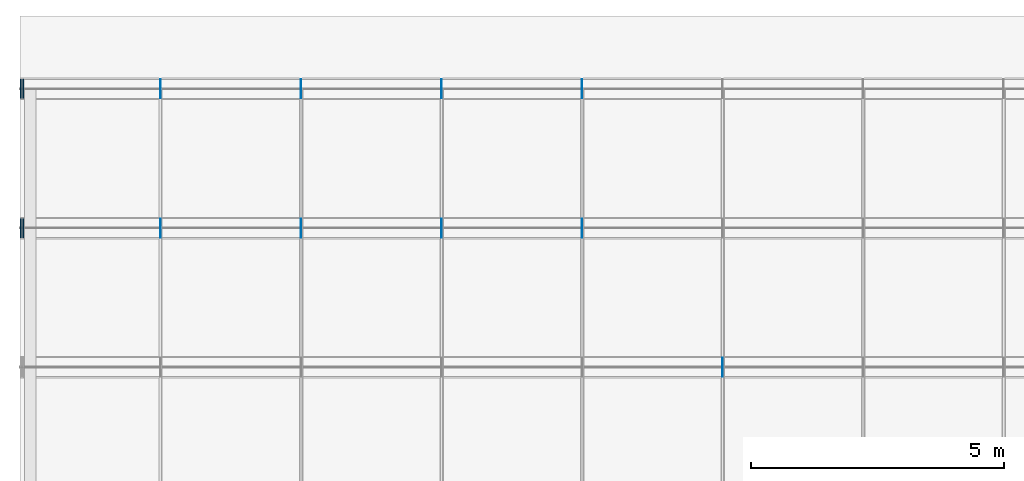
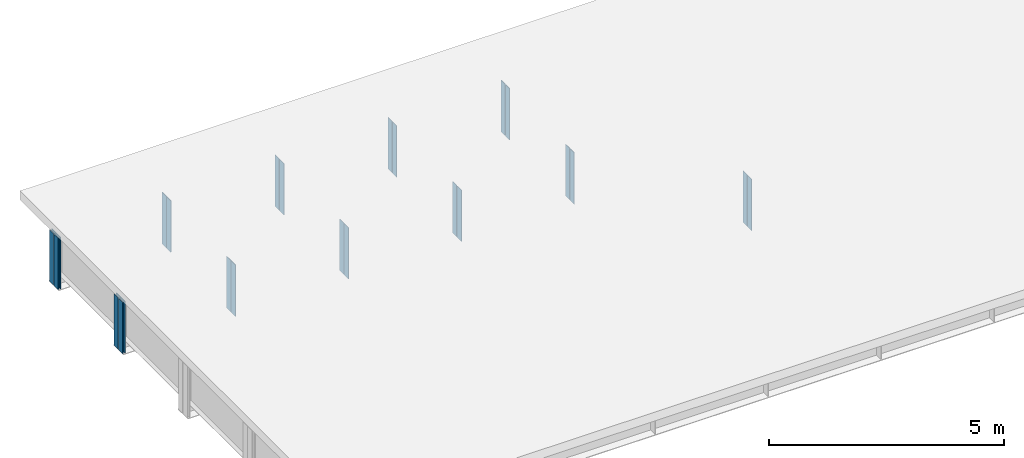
# One storey, part 9 of 13: 26 plates.
"""IFC4 building model written with IfcOpenShell, lengths in metres."""

from ifc_helpers import new_model, si_unit, frame, origin, origin_with_axes, origin_2d_with_axis, place, context, subcontext, project, spatial, rectangle, extrude, element, save


model = new_model("IFC4")

# Units and contexts
model_context = context("Model", 3, precision=1e-05, world=origin())
body_context = subcontext(model_context, "Body", "Model", "MODEL_VIEW")
ifc_project = project(units=[si_unit("LENGTHUNIT", "METRE"), si_unit("AREAUNIT", "SQUARE_METRE"), si_unit("VOLUMEUNIT", "CUBIC_METRE"), si_unit("PLANEANGLEUNIT", "RADIAN")], contexts=[model_context])

# Site, building, storey
site_placement = place(None, origin_with_axes())
site = spatial("IfcSite", under=ifc_project, at=site_placement, Name="Default Site")
building_placement = place(site_placement, origin_with_axes())
building = spatial("IfcBuilding", under=site, at=building_placement, Name="Bridge Structure")
storey_placement = place(building_placement, origin_with_axes())
storey = spatial("IfcBuildingStorey", under=building, at=storey_placement, Name="Superstructure")

# Plates
for number, where, z_axis, x_axis, name in (
    (1, (13.885, 0.09675, -0.6695), (0.0, 0.0, 1.0), (1.0, 0.0, 0.0), "Intermediate Stiffener 3"),
    (2, (13.885, -0.09675, -0.6695), (0.0, 0.0, 1.0), (1.0, 0.0, 0.0), "Intermediate Stiffener 3"),
    (3, (2.777, 2.84675, -0.6695), (0.0, 0.0, 1.0), (1.0, 0.0, 0.0), "Intermediate Stiffener 4"),
    (4, (2.777, 2.65325, -0.6695), (0.0, 0.0, 1.0), (1.0, 0.0, 0.0), "Intermediate Stiffener 4"),
    (5, (5.554, 2.84675, -0.6695), (0.0, 0.0, 1.0), (1.0, 0.0, 0.0), "Intermediate Stiffener 4"),
    (6, (5.554, 2.65325, -0.6695), (0.0, 0.0, 1.0), (1.0, 0.0, 0.0), "Intermediate Stiffener 4"),
    (7, (8.331, 2.84675, -0.6695), (0.0, 0.0, 1.0), (1.0, 0.0, 0.0), "Intermediate Stiffener 4"),
    (8, (8.331, 2.65325, -0.6695), (0.0, 0.0, 1.0), (1.0, 0.0, 0.0), "Intermediate Stiffener 4"),
    (9, (11.108, 2.84675, -0.6695), (0.0, 0.0, 1.0), (1.0, 0.0, 0.0), "Intermediate Stiffener 4"),
    (10, (11.108, 2.65325, -0.6695), (0.0, 0.0, 1.0), (1.0, 0.0, 0.0), "Intermediate Stiffener 4"),
):
    element("IfcPlate", number, at=place(storey_placement, frame(where, z_axis=z_axis, x_axis=x_axis)), inside=storey, Name=name, context=body_context, shape_type="SweptSolid", body=[
        extrude(rectangle(XDim=0.012, YDim=0.1815, at=origin_2d_with_axis()), origin_with_axes(), (0.0, 0.0, 1.0), 1.339),
    ])
for number, where, z_axis, x_axis, name in (
    (11, (0.01, 2.84675, -0.6695), (0.0, 0.0, 1.0), (1.0, 0.0, 0.0), "End Stiffener 4"),
    (12, (0.01, 2.65325, -0.6695), (0.0, 0.0, 1.0), (1.0, 0.0, 0.0), "End Stiffener 4"),
    (13, (0.06, 2.84675, -0.6695), (0.0, 0.0, 1.0), (1.0, 0.0, 0.0), "End Stiffener 4"),
    (14, (0.06, 2.65325, -0.6695), (0.0, 0.0, 1.0), (1.0, 0.0, 0.0), "End Stiffener 4"),
):
    element("IfcPlate", number, at=place(storey_placement, frame(where, z_axis=z_axis, x_axis=x_axis)), inside=storey, Name=name, context=body_context, shape_type="SweptSolid", body=[
        extrude(rectangle(XDim=0.02, YDim=0.1815, at=origin_2d_with_axis()), origin_with_axes(), (0.0, 0.0, 1.0), 1.339),
    ])
for number, where, z_axis, x_axis, name in (
    (15, (2.777, 5.59675, -0.6695), (0.0, 0.0, 1.0), (1.0, 0.0, 0.0), "Intermediate Stiffener 5"),
    (16, (2.777, 5.40325, -0.6695), (0.0, 0.0, 1.0), (1.0, 0.0, 0.0), "Intermediate Stiffener 5"),
    (17, (5.554, 5.59675, -0.6695), (0.0, 0.0, 1.0), (1.0, 0.0, 0.0), "Intermediate Stiffener 5"),
    (18, (5.554, 5.40325, -0.6695), (0.0, 0.0, 1.0), (1.0, 0.0, 0.0), "Intermediate Stiffener 5"),
    (19, (8.331, 5.59675, -0.6695), (0.0, 0.0, 1.0), (1.0, 0.0, 0.0), "Intermediate Stiffener 5"),
    (20, (8.331, 5.40325, -0.6695), (0.0, 0.0, 1.0), (1.0, 0.0, 0.0), "Intermediate Stiffener 5"),
    (21, (11.108, 5.59675, -0.6695), (0.0, 0.0, 1.0), (1.0, 0.0, 0.0), "Intermediate Stiffener 5"),
    (22, (11.108, 5.40325, -0.6695), (0.0, 0.0, 1.0), (1.0, 0.0, 0.0), "Intermediate Stiffener 5"),
):
    element("IfcPlate", number, at=place(storey_placement, frame(where, z_axis=z_axis, x_axis=x_axis)), inside=storey, Name=name, context=body_context, shape_type="SweptSolid", body=[
        extrude(rectangle(XDim=0.012, YDim=0.1815, at=origin_2d_with_axis()), origin_with_axes(), (0.0, 0.0, 1.0), 1.339),
    ])
for number, where, z_axis, x_axis, name in (
    (23, (0.01, 5.59675, -0.6695), (0.0, 0.0, 1.0), (1.0, 0.0, 0.0), "End Stiffener 5"),
    (24, (0.01, 5.40325, -0.6695), (0.0, 0.0, 1.0), (1.0, 0.0, 0.0), "End Stiffener 5"),
    (25, (0.06, 5.59675, -0.6695), (0.0, 0.0, 1.0), (1.0, 0.0, 0.0), "End Stiffener 5"),
    (26, (0.06, 5.40325, -0.6695), (0.0, 0.0, 1.0), (1.0, 0.0, 0.0), "End Stiffener 5"),
):
    element("IfcPlate", number, at=place(storey_placement, frame(where, z_axis=z_axis, x_axis=x_axis)), inside=storey, Name=name, context=body_context, shape_type="SweptSolid", body=[
        extrude(rectangle(XDim=0.02, YDim=0.1815, at=origin_2d_with_axis()), origin_with_axes(), (0.0, 0.0, 1.0), 1.339),
    ])

save(model, "model.ifc")
